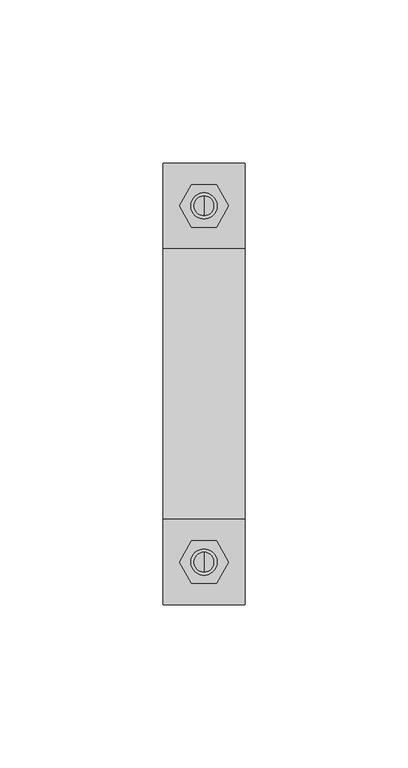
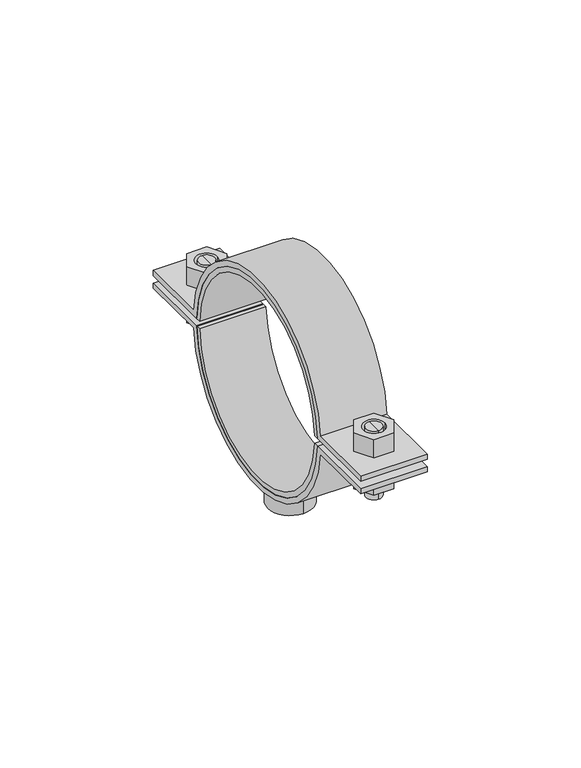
"""IFC4 building model written with IfcOpenShell, lengths in millimetres: valve geometry, Superfix DG2 Clamp : Superfix DG2 Clamp."""

import ifcopenshell
import ifcopenshell.guid

model = None  # the IFC model being written
_history = None  # IfcOwnerHistory: only IFC2X3 demands one
_inside = {}  # id of a spatial element -> (the spatial element, [elements in it])
_under = {}  # id of a project, library or spatial element -> (it, [spatial elements below it])
_declared = {}  # id of a project -> (the project, [libraries it declares])
_typed = {}  # id of a type object -> (the type object, [elements of that type])
_made_of = {}  # id of a material, layer set ... -> (it, [elements and type objects made of it])


def new_model(schema):
    """Start an empty IFC model of exactly this schema.

    Asked for "IFC4X3", IfcOpenShell would pick the latest addendum, in which some entities
    have other attributes; the version numbers below select the first issue.
    IFC2X3 requires an IfcOwnerHistory on every rooted entity: one is made here for all.
    """
    global model, _history
    if schema == "IFC4X3":
        model = ifcopenshell.file(schema_version=(4, 3, 0, 0))
    else:
        model = ifcopenshell.file(schema=schema)
    _inside.clear()
    _under.clear()
    _declared.clear()
    _typed.clear()
    _made_of.clear()
    _history = None
    if model.schema == "IFC2X3":
        org = make("IfcOrganization", Name="unknown")
        user = make(
            "IfcPersonAndOrganization",
            ThePerson=make("IfcPerson", FamilyName="unknown"),
            TheOrganization=org,
        )
        app = make(
            "IfcApplication",
            ApplicationDeveloper=org,
            Version="unknown",
            ApplicationFullName="unknown",
            ApplicationIdentifier="unknown",
        )
        _history = make(
            "IfcOwnerHistory",
            OwningUser=user,
            OwningApplication=app,
            ChangeAction="ADDED",
            CreationDate=0,
        )
    return model


def make(cls, **values):
    """One entity of the class cls with the attributes given. An attribute that is None is left unset."""
    return model.create_entity(
        cls, **{name: value for name, value in values.items() if value is not None}
    )


def rooted(cls, **values):
    """An entity with a GlobalId (a new one), such as an element, a storey or a relation."""
    return make(cls, GlobalId=ifcopenshell.guid.new(), OwnerHistory=_history, **values)


def si_unit(unit_type, name, prefix=None):
    """IfcSIUnit, for example si_unit("LENGTHUNIT", "METRE", prefix="MILLI")."""
    return make("IfcSIUnit", UnitType=unit_type, Prefix=prefix, Name=name)


def assignment(units):
    """IfcUnitAssignment: the units of a project."""
    return None if units is None else make("IfcUnitAssignment", Units=units)


def point(xyz):
    """IfcCartesianPoint."""
    return None if xyz is None else make("IfcCartesianPoint", Coordinates=xyz)


def direction(xyz):
    """IfcDirection."""
    return None if xyz is None else make("IfcDirection", DirectionRatios=xyz)


def frame(location, z_axis=None, x_axis=None):
    """IfcAxis2Placement3D, a coordinate frame: its origin and axes. An axis left out is left unset."""
    return make(
        "IfcAxis2Placement3D",
        Location=point(location),
        Axis=direction(z_axis),
        RefDirection=direction(x_axis),
    )


def frame_2d(location, x_axis=None):
    """IfcAxis2Placement2D, a coordinate frame in the plane: its origin and x axis."""
    return make(
        "IfcAxis2Placement2D", Location=point(location), RefDirection=direction(x_axis)
    )


def origin():
    """The frame at (0, 0, 0) with its axes left unset."""
    return frame((0.0, 0.0, 0.0))


def origin_2d():
    """The frame at (0, 0) in the plane with its x axis left unset."""
    return frame_2d((0.0, 0.0))


def place(relative_to, where):
    """IfcLocalPlacement: puts the frame where relative to a parent placement (None: the world)."""
    return make(
        "IfcLocalPlacement", PlacementRelTo=relative_to, RelativePlacement=where
    )


def context(
    kind, dimensions, precision=None, world=None, true_north=None, identifier=None
):
    """IfcGeometricRepresentationContext, for example the 3D "Model" context."""
    return make(
        "IfcGeometricRepresentationContext",
        ContextIdentifier=identifier,
        ContextType=kind,
        CoordinateSpaceDimension=dimensions,
        Precision=precision,
        WorldCoordinateSystem=world,
        TrueNorth=true_north,
    )


def project(units=None, contexts=None):
    """IfcProject with its units and contexts."""
    return rooted(
        "IfcProject",
        Name="project",
        RepresentationContexts=contexts,
        UnitsInContext=assignment(units),
    )


def spatial(cls, under=None, at=None, **own):
    """A site, building, storey or space (cls), placed at a placement, below another one or the project."""
    s = rooted(cls, ObjectPlacement=at, **own)
    if under is not None:
        _under.setdefault(under.id(), (under, []))[1].append(s)
    return s


def polyline(points):
    """IfcPolyline through the points."""
    return make("IfcPolyline", Points=[point(p) for p in points])


def circle_curve(where, radius):
    """IfcCircle in the frame where."""
    return make("IfcCircle", Position=where, Radius=radius)


def trimmed(basis, trim1, trim2, sense, master):
    """IfcTrimmedCurve: the piece of a basis curve between two trims."""
    return make(
        "IfcTrimmedCurve",
        BasisCurve=basis,
        Trim1=trim1,
        Trim2=trim2,
        SenseAgreement=sense,
        MasterRepresentation=master,
    )


def segment(curve, same_sense, transition):
    """IfcCompositeCurveSegment."""
    return make(
        "IfcCompositeCurveSegment",
        Transition=transition,
        SameSense=same_sense,
        ParentCurve=curve,
    )


def composite_curve(segments, self_intersect=None):
    """IfcCompositeCurve: segments joined end to end."""
    return make("IfcCompositeCurve", Segments=segments, SelfIntersect=self_intersect)


def outline(outer, holes=None, kind="AREA"):
    """IfcArbitraryClosedProfileDef: a profile drawn as a closed curve; with holes, ...WithVoids."""
    if holes is None:
        return make("IfcArbitraryClosedProfileDef", ProfileType=kind, OuterCurve=outer)
    return make(
        "IfcArbitraryProfileDefWithVoids",
        ProfileType=kind,
        OuterCurve=outer,
        InnerCurves=holes,
    )


def extrude(swept, where, along, depth):
    """IfcExtrudedAreaSolid: the profile swept, set in the frame where, extruded along a direction by depth."""
    return make(
        "IfcExtrudedAreaSolid",
        SweptArea=swept,
        Position=where,
        ExtrudedDirection=direction(along),
        Depth=depth,
    )


def shape(context_of_items, identifier, shape_type, items):
    """IfcShapeRepresentation: the items that make up one representation, for example the "Body"."""
    return make(
        "IfcShapeRepresentation",
        ContextOfItems=context_of_items,
        RepresentationIdentifier=identifier,
        RepresentationType=shape_type,
        Items=items,
    )


def source(mapping_origin, context_of_items, identifier, shape_type, items):
    """IfcRepresentationMap: a shape defined once, which mapped items show again and again."""
    return make(
        "IfcRepresentationMap",
        MappingOrigin=mapping_origin,
        MappedRepresentation=shape(context_of_items, identifier, shape_type, items),
    )


def transform(
    local_origin,
    x_axis=None,
    y_axis=None,
    z_axis=None,
    scale=None,
    scale2=None,
    scale3=None,
    uniform=True,
):
    """IfcCartesianTransformationOperator3D, or its non-uniform kind. x_axis, y_axis, z_axis: its Axis1, 2, 3."""
    if uniform:
        return make(
            "IfcCartesianTransformationOperator3D",
            Axis1=direction(x_axis),
            Axis2=direction(y_axis),
            LocalOrigin=point(local_origin),
            Scale=scale,
            Axis3=direction(z_axis),
        )
    return make(
        "IfcCartesianTransformationOperator3DnonUniform",
        Axis1=direction(x_axis),
        Axis2=direction(y_axis),
        LocalOrigin=point(local_origin),
        Scale=scale,
        Axis3=direction(z_axis),
        Scale2=scale2,
        Scale3=scale3,
    )


def mapped(mapping_source, mapping_target):
    """IfcMappedItem: shows the shape of a source again, moved by a transform."""
    return make(
        "IfcMappedItem", MappingSource=mapping_source, MappingTarget=mapping_target
    )


def made_of(thing, what):
    """Note that an element or type object is made of a material, layer set ...; save() writes the relation."""
    if what is not None:
        _made_of.setdefault(what.id(), (what, []))[1].append(thing)
    return thing


def element(
    cls,
    number,
    at=None,
    inside=None,
    cuts=None,
    type_object=None,
    material=None,
    context=None,
    identifier="Body",
    shape_type=None,
    held_by="IfcProductDefinitionShape",
    body=None,
    shapes=None,
    **own,
):
    """One element of the class cls, such as IfcWall. Its Tag is "e" and its number.

    at: its placement. inside: the storey or other place that contains it. cuts: it is an
    opening in that element (IfcRelVoidsElement). A single representation is given by context,
    identifier, shape_type and body (its items); several are given by shapes. held_by: the class
    of the entity that holds the representations. save() writes the other relations.
    """
    e = rooted(cls, Tag="e%d" % number, ObjectPlacement=at, **own)
    if body is not None:
        shapes = [shape(context, identifier, shape_type, body)]
    if shapes is not None:
        e.Representation = make(held_by, Representations=shapes)
    if inside is not None:
        _inside.setdefault(inside.id(), (inside, []))[1].append(e)
    if cuts is not None:
        rooted(
            "IfcRelVoidsElement", RelatingBuildingElement=cuts, RelatedOpeningElement=e
        )
    if type_object is not None:
        _typed.setdefault(type_object.id(), (type_object, []))[1].append(e)
    return made_of(e, material)


def aggregate(whole, parts):
    """IfcRelAggregates: a whole, such as a stair, and the parts it consists of."""
    return rooted("IfcRelAggregates", RelatingObject=whole, RelatedObjects=parts)


def save(model, path):
    """Write the relations noted so far, then the file.

    IfcRelAggregates (storeys below a building ...), IfcRelContainedInSpatialStructure (elements
    in a storey), IfcRelDefinesByType, IfcRelAssociatesMaterial and IfcRelDeclares: one each for
    every whole, place, type object, material and project.
    """
    for whole, parts in _under.values():
        aggregate(whole, parts)
    for where, things in _inside.values():
        rooted(
            "IfcRelContainedInSpatialStructure",
            RelatedElements=things,
            RelatingStructure=where,
        )
    for kind, things in _typed.values():
        rooted("IfcRelDefinesByType", RelatedObjects=things, RelatingType=kind)
    for what, things in _made_of.values():
        rooted("IfcRelAssociatesMaterial", RelatedObjects=things, RelatingMaterial=what)
    for by, libraries in _declared.values():
        rooted("IfcRelDeclares", RelatingContext=by, RelatedDefinitions=libraries)
    model.write(path)


def plane_surface(at):
    """IfcPlane: the flat surface through the origin of the frame at, square to its z axis."""
    return make("IfcPlane", Position=at)


def cylinder_surface(at, radius):
    """IfcCylindricalSurface: all points at the distance radius from the z axis of the frame at."""
    return make("IfcCylindricalSurface", Position=at, Radius=radius)


def advanced_brep(points, edges, surfaces, faces):
    """IfcAdvancedBrep: a solid bounded by faces that lie on surfaces and meet in shared edges.

    An edge is (start, end): straight between two places in points (the first is 0);
    or (start, end, curve); or (start, end, curve, False) where it runs against its curve.
    A face is (place in surfaces, loops), or (place, loops, False) where it looks against
    its surface's normal. A loop lists edges by number (the first is 1), with a minus sign
    where the edge is run from its end to its start. The first loop is the outer one.
    """
    corners = [point(p) for p in points]
    vertices = [make("IfcVertexPoint", VertexGeometry=c) for c in corners]
    made = []
    for start, end, *more in edges:
        made.append(
            make(
                "IfcEdgeCurve",
                EdgeStart=vertices[start],
                EdgeEnd=vertices[end],
                EdgeGeometry=more[0] if more else make("IfcPolyline", Points=[corners[start], corners[end]]),
                SameSense=more[1] if len(more) > 1 else True,
            )
        )
    hull = []
    for where, loops, *sense in faces:
        bounds = []
        for j, loop in enumerate(loops):
            ring = [make("IfcOrientedEdge", EdgeElement=made[abs(k) - 1], Orientation=k > 0) for k in loop]
            bounds.append(
                make(
                    "IfcFaceOuterBound" if j == 0 else "IfcFaceBound",
                    Bound=make("IfcEdgeLoop", EdgeList=ring),
                    Orientation=True,
                )
            )
        hull.append(make("IfcAdvancedFace", Bounds=bounds, FaceSurface=surfaces[where], SameSense=sense[0] if sense else True))
    return make("IfcAdvancedBrep", Outer=make("IfcClosedShell", CfsFaces=hull))


def valve_9efe13c8(model_context):
    return source(origin(), model_context, "Body", "SolidModel", [
        advanced_brep(
        [(0.0, 57.5, 183.9), (0.0, 51.5, 183.9), (0.0, 51.5, 198.5), (0.0, 57.5, 198.5), (0.0, 54.5, 183.9)],
        [
            (0, 1, circle_curve(frame((0.0, 54.5, 183.9), z_axis=(0.0, 0.0, 1.0), x_axis=(0.0, 1.0, 0.0)), 3.0)),
            (1, 2),
            (2, 3, circle_curve(frame((0.0, 54.5, 198.5), z_axis=(0.0, 0.0, -1.0), x_axis=(0.0, 1.0, 0.0)), 3.0)),
            (3, 0),
            (1, 0, circle_curve(frame((0.0, 54.5, 183.9), z_axis=(0.0, 0.0, 1.0), x_axis=(0.0, 1.0, 0.0)), 3.0)),
            (3, 2, circle_curve(frame((0.0, 54.5, 198.5), z_axis=(0.0, 0.0, -1.0), x_axis=(0.0, 1.0, 0.0)), 3.0)),
            (0, 4),
            (4, 1),
        ],
        [
            cylinder_surface(frame((0.0, 54.5, 198.2806094), z_axis=(0.0, 0.0, 1.0), x_axis=(0.0, 1.0, 0.0)), 3.0),
            plane_surface(frame((0.0, 54.5, 183.9), z_axis=(0.0, 0.0, -1.0), x_axis=(0.0, 1.0, 0.0))),
            plane_surface(frame((13.75, -67.5, 198.5), z_axis=(0.0, 0.0, 1.0), x_axis=(-1.0, 0.0, 0.0))),
        ],
        [
            (0, [[1, 2, 3, 4]]),
            (0, [[5, -4, 6, -2]]),
            (1, [[-1, 7, 8]]),
            (1, [[-5, -8, -7]]),
            (2, [[-3, -6]]),
        ],
    ),
        advanced_brep(
        [(0.0, 51.5, 211.1), (0.0, 57.5, 211.1), (0.0, 57.5, 201.5), (0.0, 51.5, 201.5), (0.0, 54.5, 211.1)],
        [
            (0, 1, circle_curve(frame((0.0, 54.5, 211.1), z_axis=(0.0, 0.0, -1.0), x_axis=(0.0, 1.0, 0.0)), 3.0)),
            (1, 2),
            (2, 3, circle_curve(frame((0.0, 54.5, 201.5), z_axis=(0.0, 0.0, 1.0), x_axis=(0.0, 1.0, 0.0)), 3.0)),
            (3, 0),
            (1, 0, circle_curve(frame((0.0, 54.5, 211.1), z_axis=(0.0, 0.0, -1.0), x_axis=(0.0, 1.0, 0.0)), 3.0)),
            (3, 2, circle_curve(frame((0.0, 54.5, 201.5), z_axis=(0.0, 0.0, 1.0), x_axis=(0.0, 1.0, 0.0)), 3.0)),
            (0, 4),
            (4, 1),
        ],
        [
            cylinder_surface(frame((0.0, 54.5, 198.2806094), z_axis=(0.0, 0.0, 1.0), x_axis=(0.0, 1.0, 0.0)), 3.0),
            plane_surface(frame((0.0, 54.5, 211.1), z_axis=(0.0, 0.0, 1.0), x_axis=(0.0, 1.0, 0.0))),
            plane_surface(frame((13.75, 67.5, 201.5), z_axis=(0.0, 0.0, -1.0), x_axis=(-1.0, 0.0, 0.0))),
        ],
        [
            (0, [[1, 2, 3, 4]]),
            (0, [[5, -4, 6, -2]]),
            (1, [[-1, 7, 8]]),
            (1, [[-5, -8, -7]]),
            (2, [[-3, -6]]),
        ],
    ),
        advanced_brep(
        [(0.0, -57.5, 211.1), (0.0, -51.5, 211.1), (0.0, -51.5, 201.5), (0.0, -57.5, 201.5), (0.0, -54.5, 211.1)],
        [
            (0, 1, circle_curve(frame((0.0, -54.5, 211.1), z_axis=(0.0, 0.0, -1.0), x_axis=(0.0, -1.0, 0.0)), 3.0)),
            (1, 2),
            (2, 3, circle_curve(frame((0.0, -54.5, 201.5), z_axis=(0.0, 0.0, 1.0), x_axis=(0.0, -1.0, 0.0)), 3.0)),
            (3, 0),
            (1, 0, circle_curve(frame((0.0, -54.5, 211.1), z_axis=(0.0, 0.0, -1.0), x_axis=(0.0, -1.0, 0.0)), 3.0)),
            (3, 2, circle_curve(frame((0.0, -54.5, 201.5), z_axis=(0.0, 0.0, 1.0), x_axis=(0.0, -1.0, 0.0)), 3.0)),
            (0, 4),
            (4, 1),
        ],
        [
            cylinder_surface(frame((0.0, -54.5, 198.2806094), z_axis=(0.0, 0.0, -1.0), x_axis=(0.0, -1.0, 0.0)), 3.0),
            plane_surface(frame((0.0, -54.5, 211.1), z_axis=(0.0, 0.0, 1.0), x_axis=(0.0, -1.0, 0.0))),
            plane_surface(frame((13.75, 67.5, 201.5), z_axis=(0.0, 0.0, -1.0), x_axis=(-1.0, 0.0, 0.0))),
        ],
        [
            (0, [[1, 2, 3, 4]]),
            (0, [[5, -4, 6, -2]]),
            (1, [[-1, 7, 8]]),
            (1, [[-5, -8, -7]]),
            (2, [[-3, -6]]),
        ],
    ),
        advanced_brep(
        [(0.0, -51.5, 183.9), (0.0, -57.5, 183.9), (0.0, -57.5, 198.5), (0.0, -51.5, 198.5), (0.0, -54.5, 183.9)],
        [
            (0, 1, circle_curve(frame((0.0, -54.5, 183.9), z_axis=(0.0, 0.0, 1.0), x_axis=(0.0, -1.0, 0.0)), 3.0)),
            (1, 2),
            (2, 3, circle_curve(frame((0.0, -54.5, 198.5), z_axis=(0.0, 0.0, -1.0), x_axis=(0.0, -1.0, 0.0)), 3.0)),
            (3, 0),
            (1, 0, circle_curve(frame((0.0, -54.5, 183.9), z_axis=(0.0, 0.0, 1.0), x_axis=(0.0, -1.0, 0.0)), 3.0)),
            (3, 2, circle_curve(frame((0.0, -54.5, 198.5), z_axis=(0.0, 0.0, -1.0), x_axis=(0.0, -1.0, 0.0)), 3.0)),
            (0, 4),
            (4, 1),
        ],
        [
            cylinder_surface(frame((0.0, -54.5, 198.2806094), z_axis=(0.0, 0.0, -1.0), x_axis=(0.0, -1.0, 0.0)), 3.0),
            plane_surface(frame((0.0, -54.5, 183.9), z_axis=(0.0, 0.0, -1.0), x_axis=(0.0, -1.0, 0.0))),
            plane_surface(frame((13.75, -67.5, 198.5), z_axis=(0.0, 0.0, 1.0), x_axis=(-1.0, 0.0, 0.0))),
        ],
        [
            (0, [[1, 2, 3, 4]]),
            (0, [[5, -4, 6, -2]]),
            (1, [[-1, 7, 8]]),
            (1, [[-5, -8, -7]]),
            (2, [[-3, -6]]),
        ],
    ),
        extrude(outline(composite_curve([segment(trimmed(circle_curve(frame_2d((0.0, 200.0)), 39.5), [point((-39.4715087, 198.5))], [point((39.4715087, 198.5))], True, "CARTESIAN"), True, "CONTINUOUS"), segment(polyline([(39.4715087, 198.5), (67.5, 198.5), (67.5, 196.5), (41.3521463, 196.5)]), True, "CONTINUOUS"), segment(trimmed(circle_curve(frame_2d((0.0, 200.0)), 41.5), [point((41.3521463, 196.5))], [point((-41.3521463, 196.5))], False, "CARTESIAN"), True, "CONTINUOUS"), segment(polyline([(-41.3521463, 196.5), (-67.5, 196.5), (-67.5, 198.5), (-39.4715087, 198.5)]), True, "CONTINUOUS")], self_intersect=False)), frame((-12.5, 0.0, 0.0), z_axis=(1.0, 0.0, 0.0), x_axis=(0.0, 1.0, 0.0)), (0.0, 0.0, 1.0), 25.0),
        extrude(outline(composite_curve([segment(trimmed(circle_curve(frame_2d((0.0, 200.0)), 39.5), [point((39.4715087, 201.5))], [point((-39.4715087, 201.5))], True, "CARTESIAN"), True, "CONTINUOUS"), segment(polyline([(-39.4715087, 201.5), (-67.5, 201.5), (-67.5, 203.5), (-41.3521463, 203.5)]), True, "CONTINUOUS"), segment(trimmed(circle_curve(frame_2d((0.0, 200.0)), 41.5), [point((-41.3521463, 203.5))], [point((41.3521463, 203.5))], False, "CARTESIAN"), True, "CONTINUOUS"), segment(polyline([(41.3521463, 203.5), (67.5, 203.5), (67.5, 201.5), (39.4715087, 201.5)]), True, "CONTINUOUS")], self_intersect=False)), frame((-12.5, 0.0, 0.0), z_axis=(1.0, 0.0, 0.0), x_axis=(0.0, 1.0, 0.0)), (0.0, 0.0, 1.0), 25.0),
        extrude(outline(polyline([(7.5055535, -54.5), (3.7527767, -61.0), (-3.7527767, -61.0), (-7.5055535, -54.5), (-3.7527767, -48.0), (3.7527767, -48.0), (7.5055535, -54.5)]), holes=[composite_curve([segment(trimmed(circle_curve(frame_2d((0.0, -54.5)), 4.0), [point((4.0, -54.5))], [point((-4.0, -54.5))], True, "CARTESIAN"), True, "CONTINUOUS"), segment(trimmed(circle_curve(frame_2d((0.0, -54.5)), 4.0), [point((-4.0, -54.5))], [point((4.0, -54.5))], True, "CARTESIAN"), True, "CONTINUOUS")], self_intersect=False)]), frame((0.0, 0.0, 203.5), z_axis=(0.0, 0.0, 1.0), x_axis=(1.0, 0.0, 0.0)), (0.0, 0.0, 1.0), 7.6),
        extrude(outline(polyline([(7.5055535, 54.5), (3.7527767, 48.0), (-3.7527767, 48.0), (-7.5055535, 54.5), (-3.7527767, 61.0), (3.7527767, 61.0), (7.5055535, 54.5)]), holes=[composite_curve([segment(trimmed(circle_curve(frame_2d((0.0, 54.5)), 4.0), [point((4.0, 54.5))], [point((-4.0, 54.5))], True, "CARTESIAN"), True, "CONTINUOUS"), segment(trimmed(circle_curve(frame_2d((0.0, 54.5)), 4.0), [point((-4.0, 54.5))], [point((4.0, 54.5))], True, "CARTESIAN"), True, "CONTINUOUS")], self_intersect=False)]), frame((0.0, 0.0, 203.5), z_axis=(0.0, 0.0, 1.0), x_axis=(1.0, 0.0, 0.0)), (0.0, 0.0, 1.0), 7.6),
        extrude(outline(polyline([(7.5055535, -54.5), (3.7527767, -61.0), (-3.7527767, -61.0), (-7.5055535, -54.5), (-3.7527767, -48.0), (3.7527767, -48.0), (7.5055535, -54.5)]), holes=[composite_curve([segment(trimmed(circle_curve(frame_2d((0.0, -54.5)), 4.0), [point((4.0, -54.5))], [point((-4.0, -54.5))], True, "CARTESIAN"), True, "CONTINUOUS"), segment(trimmed(circle_curve(frame_2d((0.0, -54.5)), 4.0), [point((-4.0, -54.5))], [point((4.0, -54.5))], True, "CARTESIAN"), True, "CONTINUOUS")], self_intersect=False)]), frame((0.0, 0.0, 188.9), z_axis=(0.0, 0.0, 1.0), x_axis=(1.0, 0.0, 0.0)), (0.0, 0.0, 1.0), 7.6),
        extrude(outline(polyline([(7.5055535, 54.5), (3.7527767, 48.0), (-3.7527767, 48.0), (-7.5055535, 54.5), (-3.7527767, 61.0), (3.7527767, 61.0), (7.5055535, 54.5)]), holes=[composite_curve([segment(trimmed(circle_curve(frame_2d((0.0, 54.5)), 4.0), [point((4.0, 54.5))], [point((-4.0, 54.5))], True, "CARTESIAN"), True, "CONTINUOUS"), segment(trimmed(circle_curve(frame_2d((0.0, 54.5)), 4.0), [point((-4.0, 54.5))], [point((4.0, 54.5))], True, "CARTESIAN"), True, "CONTINUOUS")], self_intersect=False)]), frame((0.0, 0.0, 188.9), z_axis=(0.0, 0.0, 1.0), x_axis=(1.0, 0.0, 0.0)), (0.0, 0.0, 1.0), 7.6),
        extrude(outline(composite_curve([segment(trimmed(circle_curve(origin_2d(), 8.5), [point((0.0, 8.5))], [point((0.0, -8.5))], False, "CARTESIAN"), True, "CONTINUOUS"), segment(trimmed(circle_curve(origin_2d(), 8.5), [point((0.0, -8.5))], [point((0.0, 8.5))], False, "CARTESIAN"), True, "CONTINUOUS")], self_intersect=False), holes=[composite_curve([segment(trimmed(circle_curve(origin_2d(), 5.0), [point((0.0, 5.0))], [point((0.0, -5.0))], True, "CARTESIAN"), True, "CONTINUOUS"), segment(trimmed(circle_curve(origin_2d(), 5.0), [point((0.0, -5.0))], [point((0.0, 5.0))], True, "CARTESIAN"), True, "CONTINUOUS")], self_intersect=False)]), frame((0.0, 0.0, 148.5), z_axis=(0.0, 0.0, 1.0), x_axis=(1.0, 0.0, 0.0)), (0.0, 0.0, 1.0), 12.0),
        extrude(outline(composite_curve([segment(trimmed(circle_curve(frame_2d((0.0, 200.0)), 37.5), [point((37.469988, 201.5))], [point((-37.469988, 201.5))], True, "CARTESIAN"), True, "CONTINUOUS"), segment(polyline([(-37.469988, 201.5), (-39.4715087, 201.5)]), True, "CONTINUOUS"), segment(trimmed(circle_curve(frame_2d((0.0, 200.0)), 39.5), [point((-39.4715087, 201.5))], [point((39.4715087, 201.5))], False, "CARTESIAN"), True, "CONTINUOUS"), segment(polyline([(39.4715087, 201.5), (37.469988, 201.5)]), True, "CONTINUOUS")], self_intersect=False)), frame((-12.5, 0.0, 0.0), z_axis=(1.0, 0.0, 0.0), x_axis=(0.0, 1.0, 0.0)), (0.0, 0.0, 1.0), 25.0),
        extrude(outline(composite_curve([segment(polyline([(37.469988, 198.5), (39.4715087, 198.5)]), True, "CONTINUOUS"), segment(trimmed(circle_curve(frame_2d((0.0, 200.0)), 39.5), [point((39.4715087, 198.5))], [point((-39.4715087, 198.5))], False, "CARTESIAN"), True, "CONTINUOUS"), segment(polyline([(-39.4715087, 198.5), (-37.469988, 198.5)]), True, "CONTINUOUS"), segment(trimmed(circle_curve(frame_2d((0.0, 200.0)), 37.5), [point((-37.469988, 198.5))], [point((37.469988, 198.5))], True, "CARTESIAN"), True, "CONTINUOUS")], self_intersect=False)), frame((-12.5, 0.0, 0.0), z_axis=(1.0, 0.0, 0.0), x_axis=(0.0, 1.0, 0.0)), (0.0, 0.0, 1.0), 25.0),
    ])


if __name__ == "__main__":
    model = new_model("IFC4")
    model_context = context("Model", 3, world=origin())
    ifc_project = project(units=[si_unit("LENGTHUNIT", "METRE", prefix="MILLI")], contexts=[model_context])
    site = spatial("IfcSite", under=ifc_project)
    building = spatial("IfcBuilding", under=site)
    placement = place(None, origin())
    valve_shape = valve_9efe13c8(model_context)
    element("IfcValve", 1, ObjectType="Superfix DG2 Clamp : Superfix DG2 Clamp", at=placement, inside=building, context=model_context, shape_type="MappedRepresentation", body=[
        mapped(valve_shape, transform((0.0, 0.0, 0.0), x_axis=(1.0, 0.0, 0.0), y_axis=(0.0, 1.0, 0.0), z_axis=(0.0, 0.0, 1.0))),
    ])
    save(model, "model.ifc")
